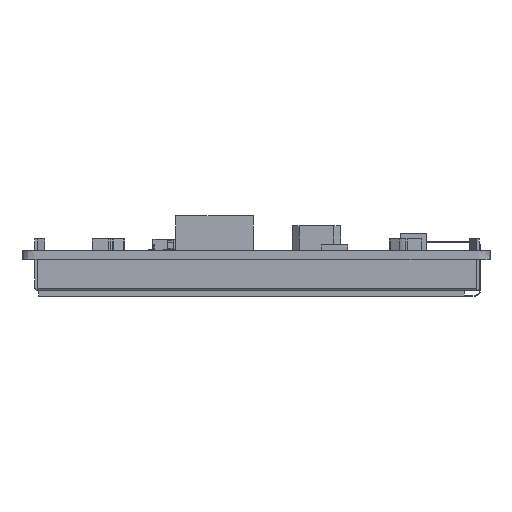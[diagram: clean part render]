
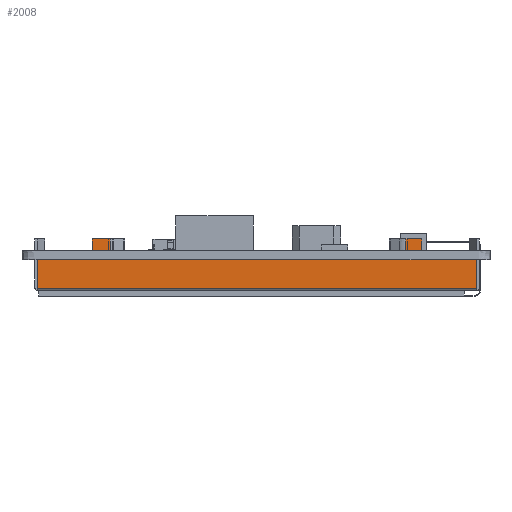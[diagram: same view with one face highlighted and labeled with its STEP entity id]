
A CAD part, left-side view. The second image highlights one B-rep face of the part: STEP entity #2008.
In plain terms, the highlighted planar face has unit normal (-1, 0, 0).
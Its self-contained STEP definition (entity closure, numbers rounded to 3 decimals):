
#2008=ADVANCED_FACE('',(#4178),#3241,.F.);
#3241=PLANE('',#25229);
#4178=FACE_OUTER_BOUND('',#5373,.T.);
#5373=EDGE_LOOP('',(#6894,#6895,#6896,#6897,#6898,#6899,#6900,#6901,#6902,
#6903,#6904,#6905,#6906,#6907,#6908,#6909));
#6894=ORIENTED_EDGE('',*,*,#16042,.F.);
#6895=ORIENTED_EDGE('',*,*,#16043,.T.);
#6896=ORIENTED_EDGE('',*,*,#16044,.T.);
#6897=ORIENTED_EDGE('',*,*,#16039,.T.);
#6898=ORIENTED_EDGE('',*,*,#16045,.T.);
#6899=ORIENTED_EDGE('',*,*,#16046,.F.);
#6900=ORIENTED_EDGE('',*,*,#16047,.T.);
#6901=ORIENTED_EDGE('',*,*,#16048,.F.);
#6902=ORIENTED_EDGE('',*,*,#16049,.F.);
#6903=ORIENTED_EDGE('',*,*,#16035,.T.);
#6904=ORIENTED_EDGE('',*,*,#16050,.T.);
#6905=ORIENTED_EDGE('',*,*,#16051,.T.);
#6906=ORIENTED_EDGE('',*,*,#16052,.F.);
#6907=ORIENTED_EDGE('',*,*,#16053,.F.);
#6908=ORIENTED_EDGE('',*,*,#16054,.F.);
#6909=ORIENTED_EDGE('',*,*,#16033,.T.);
#13713=VERTEX_POINT('',#33766);
#13715=VERTEX_POINT('',#33770);
#13716=VERTEX_POINT('',#33774);
#13718=VERTEX_POINT('',#33777);
#13720=VERTEX_POINT('',#33783);
#13722=VERTEX_POINT('',#33786);
#13724=VERTEX_POINT('',#33792);
#13725=VERTEX_POINT('',#33794);
#13726=VERTEX_POINT('',#33797);
#13727=VERTEX_POINT('',#33799);
#13728=VERTEX_POINT('',#33801);
#13729=VERTEX_POINT('',#33803);
#13730=VERTEX_POINT('',#33806);
#13731=VERTEX_POINT('',#33808);
#13732=VERTEX_POINT('',#33810);
#13733=VERTEX_POINT('',#33812);
#16033=EDGE_CURVE('',#13713,#13715,#19519,.T.);
#16035=EDGE_CURVE('',#13718,#13716,#19521,.T.);
#16039=EDGE_CURVE('',#13722,#13720,#19525,.T.);
#16042=EDGE_CURVE('',#13724,#13715,#19528,.T.);
#16043=EDGE_CURVE('',#13724,#13725,#19529,.T.);
#16044=EDGE_CURVE('',#13725,#13722,#19530,.T.);
#16045=EDGE_CURVE('',#13720,#13726,#19531,.T.);
#16046=EDGE_CURVE('',#13727,#13726,#19532,.T.);
#16047=EDGE_CURVE('',#13727,#13728,#19533,.T.);
#16048=EDGE_CURVE('',#13729,#13728,#19534,.T.);
#16049=EDGE_CURVE('',#13718,#13729,#19535,.T.);
#16050=EDGE_CURVE('',#13716,#13730,#19536,.T.);
#16051=EDGE_CURVE('',#13730,#13731,#19537,.T.);
#16052=EDGE_CURVE('',#13732,#13731,#19538,.T.);
#16053=EDGE_CURVE('',#13733,#13732,#19539,.T.);
#16054=EDGE_CURVE('',#13713,#13733,#19540,.T.);
#19519=LINE('',#33771,#22405);
#19521=LINE('',#33776,#22407);
#19525=LINE('',#33785,#22411);
#19528=LINE('',#33791,#22414);
#19529=LINE('',#33793,#22415);
#19530=LINE('',#33795,#22416);
#19531=LINE('',#33796,#22417);
#19532=LINE('',#33798,#22418);
#19533=LINE('',#33800,#22419);
#19534=LINE('',#33802,#22420);
#19535=LINE('',#33804,#22421);
#19536=LINE('',#33805,#22422);
#19537=LINE('',#33807,#22423);
#19538=LINE('',#33809,#22424);
#19539=LINE('',#33811,#22425);
#19540=LINE('',#33813,#22426);
#22405=VECTOR('',#27201,1.);
#22407=VECTOR('',#27205,1.);
#22411=VECTOR('',#27211,1.);
#22414=VECTOR('',#27216,1.);
#22415=VECTOR('',#27217,1.);
#22416=VECTOR('',#27218,1.);
#22417=VECTOR('',#27219,1.);
#22418=VECTOR('',#27220,1.);
#22419=VECTOR('',#27221,1.);
#22420=VECTOR('',#27222,1.);
#22421=VECTOR('',#27223,1.);
#22422=VECTOR('',#27224,1.);
#22423=VECTOR('',#27225,1.);
#22424=VECTOR('',#27226,1.);
#22425=VECTOR('',#27227,1.);
#22426=VECTOR('',#27228,1.);
#25229=AXIS2_PLACEMENT_3D('',#33814,#27229,#27230);
#27201=DIRECTION('',(0.,1.,0.));
#27205=DIRECTION('',(0.,1.,0.));
#27211=DIRECTION('',(0.,1.,0.));
#27216=DIRECTION('',(0.,0.,1.));
#27217=DIRECTION('',(0.,-1.,0.));
#27218=DIRECTION('',(0.,0.,1.));
#27219=DIRECTION('',(0.,0.,1.));
#27220=DIRECTION('',(0.,-1.,0.));
#27221=DIRECTION('',(0.,0.,-1.));
#27222=DIRECTION('',(0.,-1.,0.));
#27223=DIRECTION('',(0.,0.,1.));
#27224=DIRECTION('',(0.,0.,1.));
#27225=DIRECTION('',(0.,-1.,0.));
#27226=DIRECTION('',(0.,0.,-1.));
#27227=DIRECTION('',(0.,-1.,0.));
#27228=DIRECTION('',(0.,0.,1.));
#27229=DIRECTION('',(1.,0.,0.));
#27230=DIRECTION('',(0.,1.,0.));
#33766=CARTESIAN_POINT('',(59.66,45.295,-1.6));
#33770=CARTESIAN_POINT('',(59.66,54.82,-1.6));
#33771=CARTESIAN_POINT('',(59.66,-21.2,-1.6));
#33774=CARTESIAN_POINT('',(59.66,42.295,-1.6));
#33776=CARTESIAN_POINT('',(59.66,-21.2,-1.6));
#33777=CARTESIAN_POINT('',(59.66,-8.635,-1.6));
#33783=CARTESIAN_POINT('',(59.66,-11.635,-1.6));
#33785=CARTESIAN_POINT('',(59.66,-21.2,-1.6));
#33786=CARTESIAN_POINT('',(59.66,-21.2,-1.6));
#33791=CARTESIAN_POINT('',(59.66,54.82,-6.9));
#33792=CARTESIAN_POINT('',(59.66,54.82,-6.5));
#33793=CARTESIAN_POINT('',(59.66,-21.2,-6.5));
#33794=CARTESIAN_POINT('',(59.66,-21.2,-6.5));
#33795=CARTESIAN_POINT('',(59.66,-21.2,-6.9));
#33796=CARTESIAN_POINT('',(59.66,-11.635,-1.6));
#33797=CARTESIAN_POINT('',(59.66,-11.635,2.));
#33798=CARTESIAN_POINT('',(59.66,-8.924,2.));
#33799=CARTESIAN_POINT('',(59.66,-8.924,2.));
#33800=CARTESIAN_POINT('',(59.66,-8.924,2.));
#33801=CARTESIAN_POINT('',(59.66,-8.924,0.));
#33802=CARTESIAN_POINT('',(59.66,-8.635,0.));
#33803=CARTESIAN_POINT('',(59.66,-8.635,0.));
#33804=CARTESIAN_POINT('',(59.66,-8.635,-1.6));
#33805=CARTESIAN_POINT('',(59.66,42.295,-1.6));
#33806=CARTESIAN_POINT('',(59.66,42.295,0.));
#33807=CARTESIAN_POINT('',(59.66,45.295,0.));
#33808=CARTESIAN_POINT('',(59.66,42.191,0.));
#33809=CARTESIAN_POINT('',(59.66,42.191,2.));
#33810=CARTESIAN_POINT('',(59.66,42.191,2.));
#33811=CARTESIAN_POINT('',(59.66,45.295,2.));
#33812=CARTESIAN_POINT('',(59.66,45.295,2.));
#33813=CARTESIAN_POINT('',(59.66,45.295,-1.6));
#33814=CARTESIAN_POINT('',(59.66,-21.2,-6.9));
